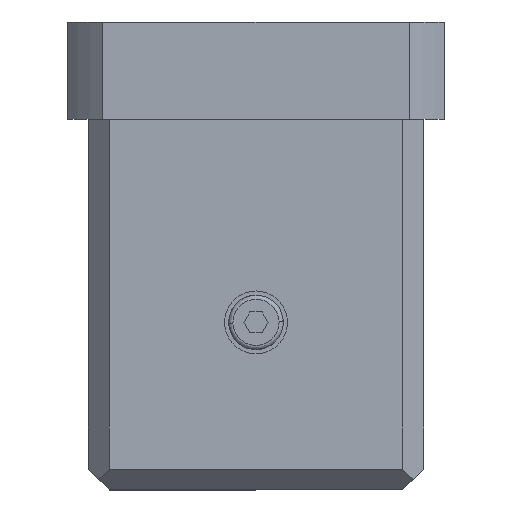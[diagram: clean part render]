
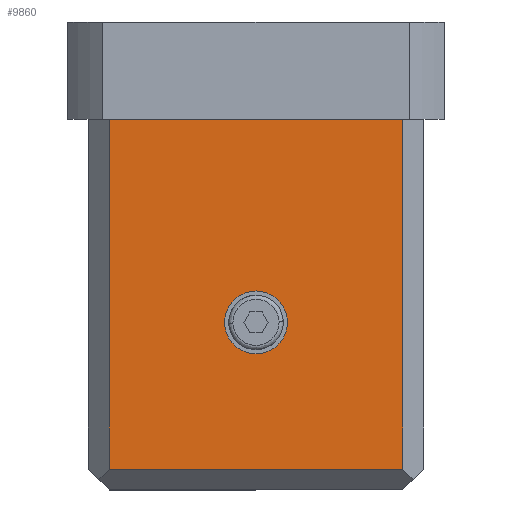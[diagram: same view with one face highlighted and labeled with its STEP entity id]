
A CAD part, left-side view. The second image highlights one B-rep face of the part: STEP entity #9860.
In plain terms, the highlighted planar face has unit normal (-1, 0, 0).
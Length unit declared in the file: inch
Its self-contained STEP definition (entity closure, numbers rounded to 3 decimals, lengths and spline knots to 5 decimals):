
#67 = DIRECTION ( 'NONE',  ( 0., 0., 1. ) ) ;
#257 = CARTESIAN_POINT ( 'NONE',  ( -7.93307, 0., 1.90551 ) ) ;
#587 = DIRECTION ( 'NONE',  ( 0., 1., 0. ) ) ;
#854 = FACE_BOUND ( 'NONE', #5242, .T. ) ;
#892 = EDGE_CURVE ( 'NONE', #4041, #4695, #2386, .T. ) ;
#1356 = ORIENTED_EDGE ( 'NONE', *, *, #892, .T. ) ;
#1549 = ORIENTED_EDGE ( 'NONE', *, *, #10105, .F. ) ;
#2348 = VECTOR ( 'NONE', #587, 39.37008 ) ;
#2384 = VERTEX_POINT ( 'NONE', #10931 ) ;
#2386 = LINE ( 'NONE', #257, #14152 ) ;
#2454 = DIRECTION ( 'NONE',  ( 0., 1., 0. ) ) ;
#3029 = LINE ( 'NONE', #13022, #6046 ) ;
#3155 = CARTESIAN_POINT ( 'NONE',  ( -7.93307, 0., -0.29528 ) ) ;
#3724 = DIRECTION ( 'NONE',  ( 1., 0., 0. ) ) ;
#4041 = VERTEX_POINT ( 'NONE', #7632 ) ;
#4425 = CARTESIAN_POINT ( 'NONE',  ( -7.93307, 0., 0. ) ) ;
#4665 = EDGE_CURVE ( 'NONE', #4041, #12079, #7868, .T. ) ;
#4695 = VERTEX_POINT ( 'NONE', #5662 ) ;
#4841 = VECTOR ( 'NONE', #6811, 39.37008 ) ;
#4900 = ORIENTED_EDGE ( 'NONE', *, *, #4665, .F. ) ;
#5242 = EDGE_LOOP ( 'NONE', ( #14267, #7226 ) ) ;
#5382 = LINE ( 'NONE', #11953, #2348 ) ;
#5583 = DIRECTION ( 'NONE',  ( 0., 0., 1. ) ) ;
#5662 = CARTESIAN_POINT ( 'NONE',  ( -7.93307, 1.37795, 1.90551 ) ) ;
#6046 = VECTOR ( 'NONE', #6212, 39.37008 ) ;
#6212 = DIRECTION ( 'NONE',  ( 0., 0., 1. ) ) ;
#6811 = DIRECTION ( 'NONE',  ( 0., 0., -1. ) ) ;
#6912 = DIRECTION ( 'NONE',  ( -1., 0., 0. ) ) ;
#7051 = CARTESIAN_POINT ( 'NONE',  ( -7.93307, 0., 0.29528 ) ) ;
#7226 = ORIENTED_EDGE ( 'NONE', *, *, #11597, .T. ) ;
#7632 = CARTESIAN_POINT ( 'NONE',  ( -7.93307, -1.37795, 1.90551 ) ) ;
#7862 = VERTEX_POINT ( 'NONE', #7051 ) ;
#7868 = LINE ( 'NONE', #9049, #4841 ) ;
#7993 = CIRCLE ( 'NONE', #10054, 0.29528 ) ;
#8147 = VERTEX_POINT ( 'NONE', #3155 ) ;
#8951 = EDGE_CURVE ( 'NONE', #12079, #2384, #5382, .T. ) ;
#9049 = CARTESIAN_POINT ( 'NONE',  ( -7.93307, -1.37795, 0.16732 ) ) ;
#9057 = EDGE_LOOP ( 'NONE', ( #4900, #1356, #1549, #9567 ) ) ;
#9567 = ORIENTED_EDGE ( 'NONE', *, *, #8951, .F. ) ;
#9860 = ADVANCED_FACE ( 'NONE', ( #854, #9974 ), #13760, .T. ) ;
#9974 = FACE_OUTER_BOUND ( 'NONE', #9057, .T. ) ;
#10054 = AXIS2_PLACEMENT_3D ( 'NONE', #4425, #12380, #5583 ) ;
#10105 = EDGE_CURVE ( 'NONE', #2384, #4695, #3029, .T. ) ;
#10523 = CARTESIAN_POINT ( 'NONE',  ( -7.93307, 0., 0. ) ) ;
#10931 = CARTESIAN_POINT ( 'NONE',  ( -7.93307, 1.37795, -1.37795 ) ) ;
#11017 = CIRCLE ( 'NONE', #11378, 0.29528 ) ;
#11378 = AXIS2_PLACEMENT_3D ( 'NONE', #10523, #3724, #11659 ) ;
#11393 = CARTESIAN_POINT ( 'NONE',  ( -7.93307, -1.37795, -1.37795 ) ) ;
#11427 = CARTESIAN_POINT ( 'NONE',  ( -7.93307, 0., 0. ) ) ;
#11597 = EDGE_CURVE ( 'NONE', #8147, #7862, #11017, .T. ) ;
#11659 = DIRECTION ( 'NONE',  ( 0., 0., 1. ) ) ;
#11840 = AXIS2_PLACEMENT_3D ( 'NONE', #11427, #6912, #67 ) ;
#11953 = CARTESIAN_POINT ( 'NONE',  ( -7.93307, 0., -1.37795 ) ) ;
#11982 = EDGE_CURVE ( 'NONE', #7862, #8147, #7993, .T. ) ;
#12079 = VERTEX_POINT ( 'NONE', #11393 ) ;
#12380 = DIRECTION ( 'NONE',  ( 1., 0., 0. ) ) ;
#13022 = CARTESIAN_POINT ( 'NONE',  ( -7.93307, 1.37795, 0.16732 ) ) ;
#13760 = PLANE ( 'NONE',  #11840 ) ;
#14152 = VECTOR ( 'NONE', #2454, 39.37008 ) ;
#14267 = ORIENTED_EDGE ( 'NONE', *, *, #11982, .T. ) ;
